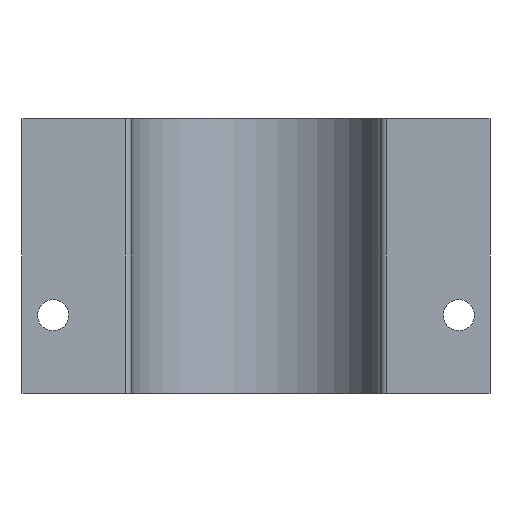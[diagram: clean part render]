
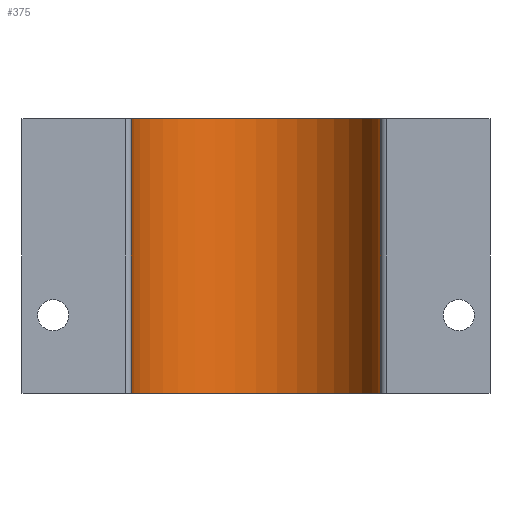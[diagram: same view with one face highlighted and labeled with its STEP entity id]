
A CAD part, front view. The second image highlights one B-rep face of the part: STEP entity #375.
In plain terms, the highlighted cylindrical face has radius 20 mm (diameter 40 mm), a partial arc.
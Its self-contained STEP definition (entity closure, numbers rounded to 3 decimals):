
#37 = VERTEX_POINT ( 'NONE', #1346 ) ;
#61 = CARTESIAN_POINT ( 'NONE',  ( -19.977, 0.952, 44. ) ) ;
#68 = FACE_OUTER_BOUND ( 'NONE', #1067, .T. ) ;
#75 = DIRECTION ( 'NONE',  ( 0., 0., -1. ) ) ;
#197 = CARTESIAN_POINT ( 'NONE',  ( 0., 0., 0. ) ) ;
#223 = EDGE_CURVE ( 'NONE', #1407, #481, #1033, .T. ) ;
#304 = DIRECTION ( 'NONE',  ( 0., 0., -1. ) ) ;
#375 = ADVANCED_FACE ( 'NONE', ( #68 ), #397, .F. ) ;
#384 = VECTOR ( 'NONE', #533, 1000. ) ;
#397 = CYLINDRICAL_SURFACE ( 'NONE', #649, 20. ) ;
#425 = CARTESIAN_POINT ( 'NONE',  ( 19.977, 0.952, 44. ) ) ;
#480 = CARTESIAN_POINT ( 'NONE',  ( -19.977, 0.952, 0. ) ) ;
#481 = VERTEX_POINT ( 'NONE', #480 ) ;
#502 = AXIS2_PLACEMENT_3D ( 'NONE', #515, #952, #1409 ) ;
#509 = CARTESIAN_POINT ( 'NONE',  ( 0., 0., 44. ) ) ;
#515 = CARTESIAN_POINT ( 'NONE',  ( 0., 0., 44. ) ) ;
#533 = DIRECTION ( 'NONE',  ( 0., 0., 1. ) ) ;
#558 = EDGE_CURVE ( 'NONE', #481, #37, #1002, .T. ) ;
#581 = CARTESIAN_POINT ( 'NONE',  ( -19.977, 0.952, 44. ) ) ;
#615 = EDGE_CURVE ( 'NONE', #1407, #1340, #1330, .T. ) ;
#616 = ORIENTED_EDGE ( 'NONE', *, *, #615, .F. ) ;
#636 = EDGE_CURVE ( 'NONE', #37, #1340, #1416, .T. ) ;
#649 = AXIS2_PLACEMENT_3D ( 'NONE', #509, #1361, #1141 ) ;
#651 = ORIENTED_EDGE ( 'NONE', *, *, #223, .T. ) ;
#807 = CARTESIAN_POINT ( 'NONE',  ( 19.977, 0.952, 44. ) ) ;
#952 = DIRECTION ( 'NONE',  ( 0., 0., -1. ) ) ;
#1002 = CIRCLE ( 'NONE', #1377, 20. ) ;
#1011 = ORIENTED_EDGE ( 'NONE', *, *, #636, .T. ) ;
#1029 = VECTOR ( 'NONE', #75, 1000. ) ;
#1033 = LINE ( 'NONE', #61, #1029 ) ;
#1051 = ORIENTED_EDGE ( 'NONE', *, *, #558, .T. ) ;
#1067 = EDGE_LOOP ( 'NONE', ( #1051, #1011, #616, #651 ) ) ;
#1085 = DIRECTION ( 'NONE',  ( 1., 0., 0. ) ) ;
#1141 = DIRECTION ( 'NONE',  ( -1., 0., 0. ) ) ;
#1330 = CIRCLE ( 'NONE', #502, 20. ) ;
#1340 = VERTEX_POINT ( 'NONE', #807 ) ;
#1346 = CARTESIAN_POINT ( 'NONE',  ( 19.977, 0.952, 0. ) ) ;
#1361 = DIRECTION ( 'NONE',  ( 0., 0., -1. ) ) ;
#1377 = AXIS2_PLACEMENT_3D ( 'NONE', #197, #304, #1085 ) ;
#1407 = VERTEX_POINT ( 'NONE', #581 ) ;
#1409 = DIRECTION ( 'NONE',  ( 1., 0., 0. ) ) ;
#1416 = LINE ( 'NONE', #425, #384 ) ;
